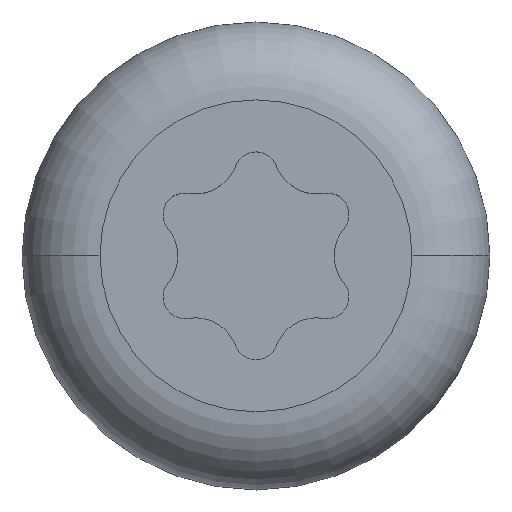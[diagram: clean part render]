
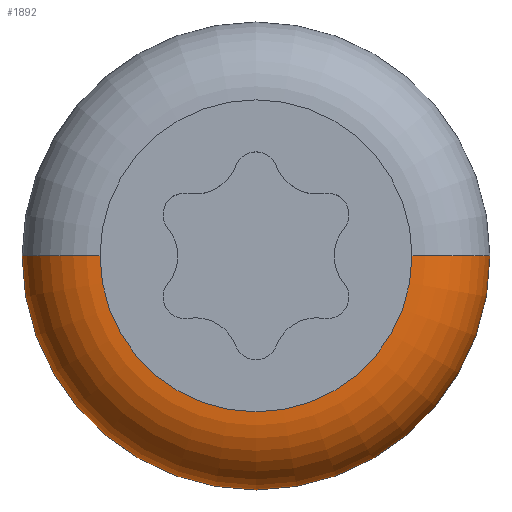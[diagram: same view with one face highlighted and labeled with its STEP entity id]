
A CAD part, top view. The second image highlights one B-rep face of the part: STEP entity #1892.
In plain terms, the highlighted toroidal (fillet/blend) face has major radius 0.833 mm and minor radius 0.417 mm.
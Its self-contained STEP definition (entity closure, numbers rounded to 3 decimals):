
#107 = ORIENTED_EDGE ( 'NONE', *, *, #442, .F. ) ;
#158 = DIRECTION ( 'NONE',  ( 0., 0., -1. ) ) ;
#193 = CIRCLE ( 'NONE', #1948, 1.25 ) ;
#442 = EDGE_CURVE ( 'NONE', #2001, #2059, #3216, .T. ) ;
#593 = CARTESIAN_POINT ( 'NONE',  ( 0., 0., 0.75 ) ) ;
#710 = CARTESIAN_POINT ( 'NONE',  ( -0.833, 0., 0.333 ) ) ;
#791 = AXIS2_PLACEMENT_3D ( 'NONE', #710, #2543, #974 ) ;
#845 = DIRECTION ( 'NONE',  ( -1., 0., 0. ) ) ;
#865 = FACE_OUTER_BOUND ( 'NONE', #1714, .T. ) ;
#896 = AXIS2_PLACEMENT_3D ( 'NONE', #2682, #2672, #1123 ) ;
#914 = CARTESIAN_POINT ( 'NONE',  ( 0.833, 0., 0.333 ) ) ;
#974 = DIRECTION ( 'NONE',  ( 0., 0., -1. ) ) ;
#1002 = ORIENTED_EDGE ( 'NONE', *, *, #1468, .T. ) ;
#1019 = EDGE_CURVE ( 'NONE', #2059, #2565, #193, .T. ) ;
#1030 = ORIENTED_EDGE ( 'NONE', *, *, #1019, .F. ) ;
#1123 = DIRECTION ( 'NONE',  ( -1., 0., 0. ) ) ;
#1185 = DIRECTION ( 'NONE',  ( -1., 0., 0. ) ) ;
#1203 = EDGE_CURVE ( 'NONE', #3074, #2565, #1808, .T. ) ;
#1398 = ORIENTED_EDGE ( 'NONE', *, *, #1203, .T. ) ;
#1468 = EDGE_CURVE ( 'NONE', #2001, #3074, #2591, .T. ) ;
#1714 = EDGE_LOOP ( 'NONE', ( #107, #1002, #1398, #1030 ) ) ;
#1718 = CARTESIAN_POINT ( 'NONE',  ( -0.833, 0., 0.75 ) ) ;
#1748 = CARTESIAN_POINT ( 'NONE',  ( 0., 0., 0.333 ) ) ;
#1808 = CIRCLE ( 'NONE', #791, 0.417 ) ;
#1892 = ADVANCED_FACE ( 'NONE', ( #865 ), #2845, .T. ) ;
#1948 = AXIS2_PLACEMENT_3D ( 'NONE', #1748, #158, #2004 ) ;
#2001 = VERTEX_POINT ( 'NONE', #2070 ) ;
#2004 = DIRECTION ( 'NONE',  ( -1., 0., 0. ) ) ;
#2059 = VERTEX_POINT ( 'NONE', #2608 ) ;
#2070 = CARTESIAN_POINT ( 'NONE',  ( 0.833, 0., 0.75 ) ) ;
#2164 = AXIS2_PLACEMENT_3D ( 'NONE', #593, #2426, #845 ) ;
#2426 = DIRECTION ( 'NONE',  ( 0., 0., -1. ) ) ;
#2543 = DIRECTION ( 'NONE',  ( 0., -1., 0. ) ) ;
#2565 = VERTEX_POINT ( 'NONE', #2937 ) ;
#2591 = CIRCLE ( 'NONE', #2164, 0.833 ) ;
#2608 = CARTESIAN_POINT ( 'NONE',  ( 1.25, 0., 0.333 ) ) ;
#2630 = AXIS2_PLACEMENT_3D ( 'NONE', #914, #2734, #1185 ) ;
#2672 = DIRECTION ( 'NONE',  ( 0., 0., -1. ) ) ;
#2682 = CARTESIAN_POINT ( 'NONE',  ( 0., 0., 0.333 ) ) ;
#2734 = DIRECTION ( 'NONE',  ( 0., 1., 0. ) ) ;
#2845 = TOROIDAL_SURFACE ( 'NONE', #896, 0.833, 0.417 ) ;
#2937 = CARTESIAN_POINT ( 'NONE',  ( -1.25, 0., 0.333 ) ) ;
#3074 = VERTEX_POINT ( 'NONE', #1718 ) ;
#3216 = CIRCLE ( 'NONE', #2630, 0.417 ) ;
